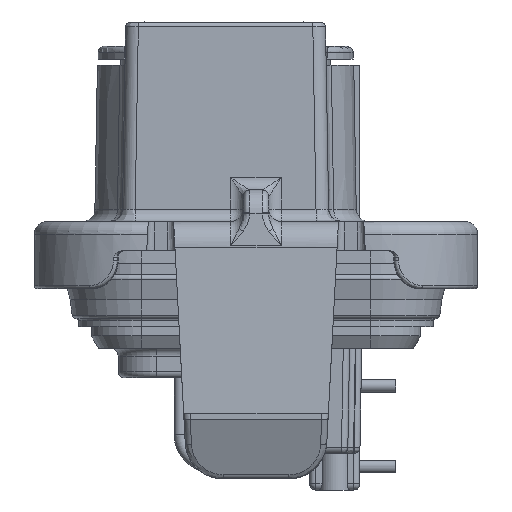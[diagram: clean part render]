
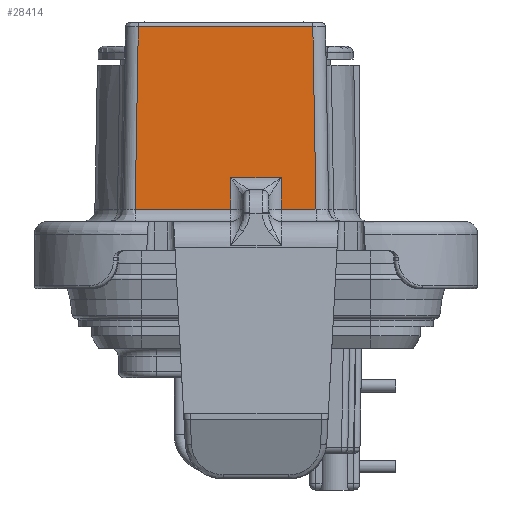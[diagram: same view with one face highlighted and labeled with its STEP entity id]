
A CAD part, left-side view. The second image highlights one B-rep face of the part: STEP entity #28414.
In plain terms, the highlighted planar face has unit normal (-1, 0, 0.018).
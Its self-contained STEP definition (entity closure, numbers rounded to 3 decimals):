
#3250=CARTESIAN_POINT('',(-20.517,9.281,
-0.393));
#3262=CARTESIAN_POINT('',(-20.768,9.532,
-14.765));
#3275=DIRECTION('',(0.,1.,0.));
#3276=VECTOR('',#3275,13.762);
#3277=CARTESIAN_POINT('',(-20.517,-4.481,
-0.393));
#3278=LINE('',#3277,#3276);
#3282=DIRECTION('',(-0.017,-0.017,-1.));
#3283=VECTOR('',#3282,14.377);
#3284=CARTESIAN_POINT('',(-20.517,-4.481,
-0.393));
#3285=LINE('',#3284,#3283);
#3289=DIRECTION('',(0.,1.,0.));
#3290=VECTOR('',#3289,2.732);
#3291=CARTESIAN_POINT('',(-20.768,-4.732,
-14.765));
#3292=LINE('',#3291,#3290);
#3296=DIRECTION('',(0.017,0.,1.));
#3297=VECTOR('',#3296,2.5);
#3298=CARTESIAN_POINT('',(-20.768,-2.,
-14.765));
#3299=LINE('',#3298,#3297);
#3303=DIRECTION('',(0.,1.,0.));
#3304=VECTOR('',#3303,4.);
#3305=CARTESIAN_POINT('',(-20.724,-2.,-12.265));
#3306=LINE('',#3305,#3304);
#3310=DIRECTION('',(-0.017,0.,-1.));
#3311=VECTOR('',#3310,2.5);
#3312=CARTESIAN_POINT('',(-20.724,2.,-12.265));
#3313=LINE('',#3312,#3311);
#3317=DIRECTION('',(0.,1.,0.));
#3318=VECTOR('',#3317,7.532);
#3319=CARTESIAN_POINT('',(-20.768,2.,
-14.765));
#3320=LINE('',#3319,#3318);
#3324=DIRECTION('',(-0.017,0.017,-1.));
#3325=VECTOR('',#3324,14.377);
#3326=CARTESIAN_POINT('',(-20.517,9.281,
-0.393));
#3327=LINE('',#3326,#3325);
#3928=CARTESIAN_POINT('',(-20.724,2.,-12.265));
#3942=CARTESIAN_POINT('',(-20.724,-2.,-12.265));
#23753=VERTEX_POINT('',#3942);
#23755=VERTEX_POINT('',#3928);
#23771=CARTESIAN_POINT('',(-20.768,2.,
-14.765));
#23772=VERTEX_POINT('',#23771);
#23777=CARTESIAN_POINT('',(-20.768,-2.,
-14.765));
#23778=VERTEX_POINT('',#23777);
#23843=VERTEX_POINT('',#3262);
#23875=CARTESIAN_POINT('',(-20.768,-4.732,
-14.765));
#23876=VERTEX_POINT('',#23875);
#23968=VERTEX_POINT('',#3250);
#23970=CARTESIAN_POINT('',(-20.517,-4.481,
-0.393));
#23971=VERTEX_POINT('',#23970);
#28393=CARTESIAN_POINT('',(-20.785,12.138,-15.748));
#28394=DIRECTION('',(-1.,0.,0.017));
#28395=DIRECTION('',(0.,1.,0.));
#28396=AXIS2_PLACEMENT_3D('',#28393,#28394,#28395);
#28397=PLANE('',#28396);
#28399=ORIENTED_EDGE('',*,*,#28398,.F.);
#28400=ORIENTED_EDGE('',*,*,#27382,.T.);
#28402=ORIENTED_EDGE('',*,*,#28401,.T.);
#28404=ORIENTED_EDGE('',*,*,#28403,.T.);
#28406=ORIENTED_EDGE('',*,*,#28405,.T.);
#28408=ORIENTED_EDGE('',*,*,#28407,.T.);
#28410=ORIENTED_EDGE('',*,*,#28409,.T.);
#28411=ORIENTED_EDGE('',*,*,#28385,.F.);
#28412=EDGE_LOOP('',(#28399,#28400,#28402,#28404,#28406,#28408,#28410,#28411));
#28413=FACE_OUTER_BOUND('',#28412,.F.);
#28414=ADVANCED_FACE('',(#28413),#28397,.T.);
#27382=EDGE_CURVE('',#23971,#23876,#3285,.T.);
#28385=EDGE_CURVE('',#23968,#23843,#3327,.T.);
#28398=EDGE_CURVE('',#23971,#23968,#3278,.T.);
#28401=EDGE_CURVE('',#23876,#23778,#3292,.T.);
#28403=EDGE_CURVE('',#23778,#23753,#3299,.T.);
#28405=EDGE_CURVE('',#23753,#23755,#3306,.T.);
#28407=EDGE_CURVE('',#23755,#23772,#3313,.T.);
#28409=EDGE_CURVE('',#23772,#23843,#3320,.T.);
